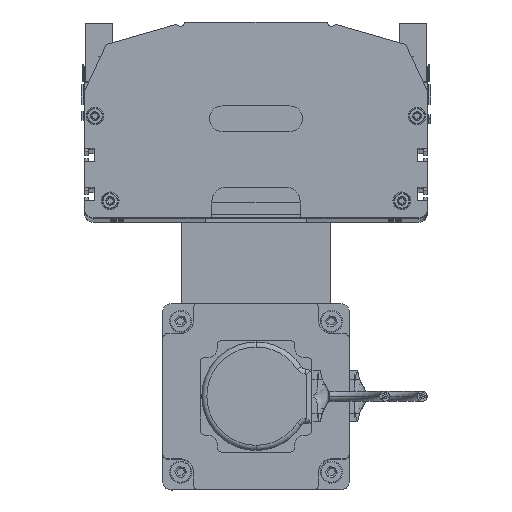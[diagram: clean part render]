
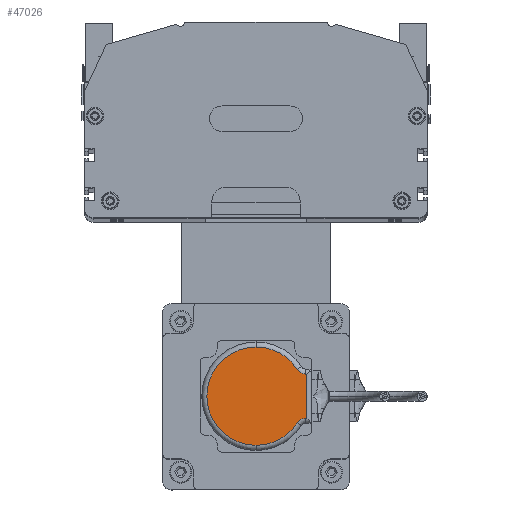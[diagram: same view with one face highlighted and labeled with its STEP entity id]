
A CAD part, top view. The second image highlights one B-rep face of the part: STEP entity #47026.
In plain terms, the highlighted planar face has unit normal (0, 0, 1).
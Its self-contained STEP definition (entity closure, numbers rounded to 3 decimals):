
#46877 = ORIENTED_EDGE ( 'NONE', *, *, #47166, .T. ) ;
#46914 = ORIENTED_EDGE ( 'NONE', *, *, #47029, .F. ) ;
#46949 = EDGE_LOOP ( 'NONE', ( #46914, #47062, #46877, #47571, #47595, #47432, #47316, #47614 ) ) ;
#47026 = ADVANCED_FACE ( 'NONE', ( #58457 ), #58452, .T. ) ;
#47029 = EDGE_CURVE ( 'NONE', #47575, #47100, #58413, .T. ) ;
#47062 = ORIENTED_EDGE ( 'NONE', *, *, #47260, .T. ) ;
#47100 = VERTEX_POINT ( 'NONE', #58611 ) ;
#47105 = VERTEX_POINT ( 'NONE', #58621 ) ;
#47166 = EDGE_CURVE ( 'NONE', #47540, #47105, #58939, .T. ) ;
#47260 = EDGE_CURVE ( 'NONE', #47575, #47540, #59046, .T. ) ;
#47302 = EDGE_CURVE ( 'NONE', #47304, #47333, #59095, .T. ) ;
#47304 = VERTEX_POINT ( 'NONE', #59069 ) ;
#47313 = EDGE_CURVE ( 'NONE', #47304, #47616, #59065, .T. ) ;
#47316 = ORIENTED_EDGE ( 'NONE', *, *, #47328, .T. ) ;
#47328 = EDGE_CURVE ( 'NONE', #47616, #47620, #59262, .T. ) ;
#47333 = VERTEX_POINT ( 'NONE', #59372 ) ;
#47392 = EDGE_CURVE ( 'NONE', #47105, #47333, #59397, .T. ) ;
#47432 = ORIENTED_EDGE ( 'NONE', *, *, #47313, .T. ) ;
#47540 = VERTEX_POINT ( 'NONE', #59922 ) ;
#47568 = EDGE_CURVE ( 'NONE', #47620, #47100, #59839, .T. ) ;
#47571 = ORIENTED_EDGE ( 'NONE', *, *, #47392, .T. ) ;
#47575 = VERTEX_POINT ( 'NONE', #59840 ) ;
#47595 = ORIENTED_EDGE ( 'NONE', *, *, #47302, .F. ) ;
#47614 = ORIENTED_EDGE ( 'NONE', *, *, #47568, .T. ) ;
#47616 = VERTEX_POINT ( 'NONE', #59994 ) ;
#47620 = VERTEX_POINT ( 'NONE', #60177 ) ;
#58401 = DIRECTION ( 'NONE',  ( 1., 0., 0. ) ) ;
#58402 = DIRECTION ( 'NONE',  ( 0., 0., 1. ) ) ;
#58411 = DIRECTION ( 'NONE',  ( 1., 0., 0. ) ) ;
#58413 = CIRCLE ( 'NONE', #58448, 6. ) ;
#58417 = CARTESIAN_POINT ( 'NONE',  ( 33., 33., 25. ) ) ;
#58435 = CARTESIAN_POINT ( 'NONE',  ( 14., 62.394, 25. ) ) ;
#58436 = DIRECTION ( 'NONE',  ( 0., 0., 1. ) ) ;
#58448 = AXIS2_PLACEMENT_3D ( 'NONE', #58435, #58402, #58401 ) ;
#58452 = PLANE ( 'NONE',  #58468 ) ;
#58457 = FACE_OUTER_BOUND ( 'NONE', #46949, .T. ) ;
#58468 = AXIS2_PLACEMENT_3D ( 'NONE', #58417, #58436, #58411 ) ;
#58611 = CARTESIAN_POINT ( 'NONE',  ( 20., 62.394, 25. ) ) ;
#58621 = CARTESIAN_POINT ( 'NONE',  ( 62., 33., 25. ) ) ;
#58884 = DIRECTION ( 'NONE',  ( 1., 0., 0. ) ) ;
#58885 = DIRECTION ( 'NONE',  ( 0., 0., 1. ) ) ;
#58886 = CARTESIAN_POINT ( 'NONE',  ( 33., 33., 25. ) ) ;
#58887 = AXIS2_PLACEMENT_3D ( 'NONE', #58886, #58885, #58884 ) ;
#58939 = CIRCLE ( 'NONE', #58887, 29. ) ;
#58984 = DIRECTION ( 'NONE',  ( 0., 1., 0. ) ) ;
#58985 = VECTOR ( 'NONE', #58984, 1000. ) ;
#59026 = DIRECTION ( 'NONE',  ( 1., 0., 0. ) ) ;
#59034 = DIRECTION ( 'NONE',  ( 0., 0., 1. ) ) ;
#59037 = CARTESIAN_POINT ( 'NONE',  ( 33., 33., 25. ) ) ;
#59046 = CIRCLE ( 'NONE', #59049, 29. ) ;
#59049 = AXIS2_PLACEMENT_3D ( 'NONE', #59037, #59034, #59026 ) ;
#59064 = CARTESIAN_POINT ( 'NONE',  ( 46., 33., 25. ) ) ;
#59065 = LINE ( 'NONE', #59064, #58985 ) ;
#59066 = DIRECTION ( 'NONE',  ( 1., 0., 0. ) ) ;
#59067 = DIRECTION ( 'NONE',  ( 0., 0., 1. ) ) ;
#59068 = CARTESIAN_POINT ( 'NONE',  ( 52., 62.394, 25. ) ) ;
#59069 = CARTESIAN_POINT ( 'NONE',  ( 46., 62.394, 25. ) ) ;
#59076 = AXIS2_PLACEMENT_3D ( 'NONE', #59068, #59067, #59066 ) ;
#59095 = CIRCLE ( 'NONE', #59076, 6. ) ;
#59262 = LINE ( 'NONE', #59336, #59319 ) ;
#59285 = DIRECTION ( 'NONE',  ( 1., 0., 0. ) ) ;
#59286 = DIRECTION ( 'NONE',  ( 0., 0., 1. ) ) ;
#59287 = AXIS2_PLACEMENT_3D ( 'NONE', #59291, #59286, #59285 ) ;
#59291 = CARTESIAN_POINT ( 'NONE',  ( 33., 33., 25. ) ) ;
#59319 = VECTOR ( 'NONE', #59335, 1000. ) ;
#59335 = DIRECTION ( 'NONE',  ( -1., 0., 0. ) ) ;
#59336 = CARTESIAN_POINT ( 'NONE',  ( 17.5, 63., 25. ) ) ;
#59372 = CARTESIAN_POINT ( 'NONE',  ( 48.743, 57.355, 25. ) ) ;
#59397 = CIRCLE ( 'NONE', #59287, 29. ) ;
#59832 = DIRECTION ( 'NONE',  ( 0., -1., 0. ) ) ;
#59833 = VECTOR ( 'NONE', #59832, 1000. ) ;
#59839 = LINE ( 'NONE', #59858, #59833 ) ;
#59840 = CARTESIAN_POINT ( 'NONE',  ( 17.257, 57.355, 25. ) ) ;
#59858 = CARTESIAN_POINT ( 'NONE',  ( 20., 33., 25. ) ) ;
#59922 = CARTESIAN_POINT ( 'NONE',  ( 4., 33., 25. ) ) ;
#59994 = CARTESIAN_POINT ( 'NONE',  ( 46., 63., 25. ) ) ;
#60177 = CARTESIAN_POINT ( 'NONE',  ( 20., 63., 25. ) ) ;
